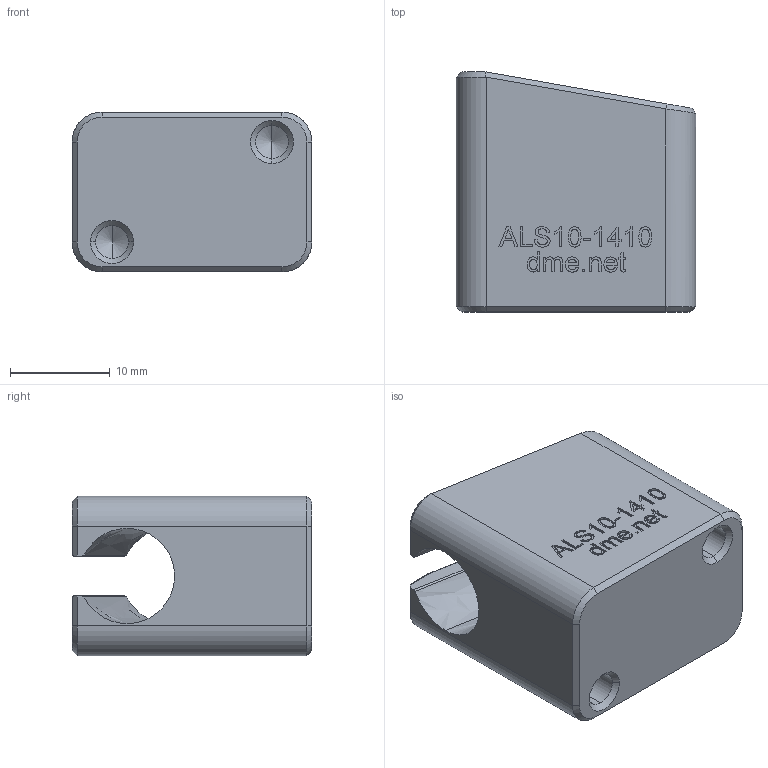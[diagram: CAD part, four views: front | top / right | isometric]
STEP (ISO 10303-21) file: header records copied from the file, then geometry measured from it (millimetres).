
FILE_DESCRIPTION (( 'STEP AP203' ), '1' );
FILE_NAME ('ALS10-1410.STEP', '2021-01-08T21:53:29', ( '' ), ( '' ), 'SwSTEP 2.0', 'SolidWorks 2020', '' );
FILE_SCHEMA (( 'CONFIG_CONTROL_DESIGN' ));
Length unit declared in the file: millimetre
Products named in the file (1): ALS10-1410
Bounding box: 24 x 24 x 16 mm (x, y, z)
Volume: 6413.5 mm3; surface area: 3016.8 mm2
Topology: 1 solids, 1 shells, 263 faces, 687 edges, 448 vertices
Faces by surface type: plane 143, bspline 92, cone 14, cylinder 14
Entity records: 12934 total; most frequent: CARTESIAN_POINT 7069, ORIENTED_EDGE 1366, DIRECTION 855, EDGE_CURVE 683, VECTOR 459, LINE 459, VERTEX_POINT 448, EDGE_LOOP 289
